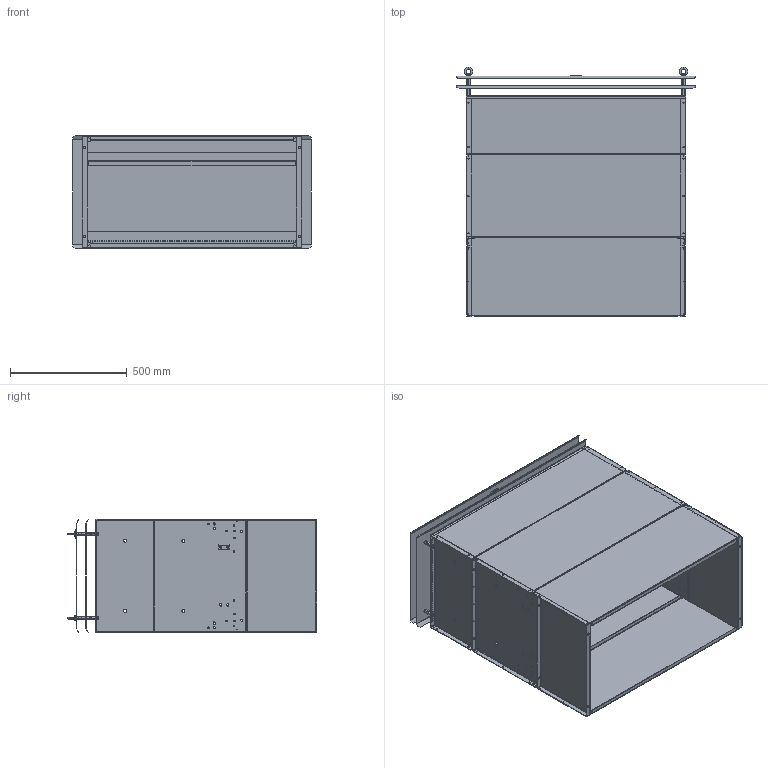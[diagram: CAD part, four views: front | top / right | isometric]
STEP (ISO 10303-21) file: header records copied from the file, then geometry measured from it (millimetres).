
FILE_DESCRIPTION(('STEP AP242'),'1');
FILE_NAME('vw3a7755.stp','2021-09-28T15:11:39',('TraceParts'),('TraceParts S.A.'),'Spatial InterOp 3D',' ',' ');
FILE_SCHEMA(('AP242_MANAGED_MODEL_BASED_3D_ENGINEERING_MIM_LF {1 0 10303 442 1 1 4}'));
Length unit declared in the file: millimetre
Products named in the file (1): vw3a7755_1
Bounding box: 1020 x 1067 x 484.94 mm (x, y, z)
Volume: 5031519.9 mm3; surface area: 8564731.6 mm2
Topology: 3 solids, 15 shells, 2877 faces, 7649 edges, 4882 vertices
Faces by surface type: plane 1868, cylinder 675, bspline 200, cone 90, torus 44
Entity records: 100210 total; most frequent: CARTESIAN_POINT 27819, ORIENTED_EDGE 15266, DIRECTION 14113, EDGE_CURVE 7633, LINE 5473, VECTOR 5473, VERTEX_POINT 4882, AXIS2_PLACEMENT_3D 4320
